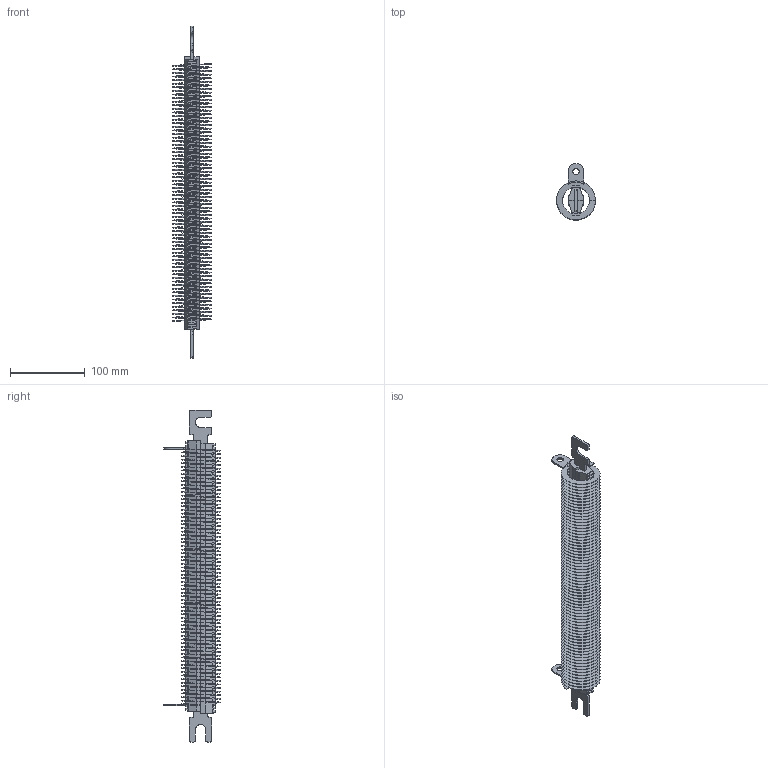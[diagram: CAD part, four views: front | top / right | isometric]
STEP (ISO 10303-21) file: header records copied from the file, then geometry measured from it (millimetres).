
FILE_DESCRIPTION(/* description */ (''),/* implementation_level */ '2;1');
FILE_NAME(/* name */ 'C:\_Vault\Dati\CATALOGO\RNP\RNP Catalogo\RNP 1000.stp',/* time_stamp */ '2023-01-25T16:10:55+01:00',/* author */ ('claudio'),/* organization */ ('Fairfild Srl'),/* preprocessor_version */ 'ST-DEVELOPER v18.1',/* originating_system */ 'Autodesk Inventor 2022',/* authorisation */ '');
FILE_SCHEMA (('AUTOMOTIVE_DESIGN { 1 0 10303 214 3 1 1 }'));
Length unit declared in the file: millimetre
Products named in the file (6): RNP 1000 14 gole; 76NP701444AT140030; Mica RNP MUSCOVITE 361x17x0,50; Spirale RNP 1000 SX 14 gole; 14NP22G01400000001; 84NP70F8M500200000
Assembly tree (15 placements, depth 2):
  RNP 1000 14 gole
    76NP701444AT140030
    Mica RNP MUSCOVITE 361x17x0,50
    Spirale RNP 1000 SX 14 gole
    14NP22G01400000001  x10
    84NP70F8M500200000  x2
Bounding box: 52 x 74.98 x 443 mm (x, y, z)
Volume: 243570.4 mm3; surface area: 278500.7 mm2
Topology: 15 solids, 15 shells, 950 faces, 2760 edges, 1840 vertices
Faces by surface type: plane 618, cylinder 330, bspline 2
Full cylindrical faces by diameter (mm): 8.5 x2, 36 x71, 52 x71
Entity records: 22514 total; most frequent: CARTESIAN_POINT 15159, ORIENTED_EDGE 1590, DIRECTION 1203, EDGE_CURVE 795, VERTEX_POINT 530, AXIS2_PLACEMENT_3D 402, LINE 399, VECTOR 399
